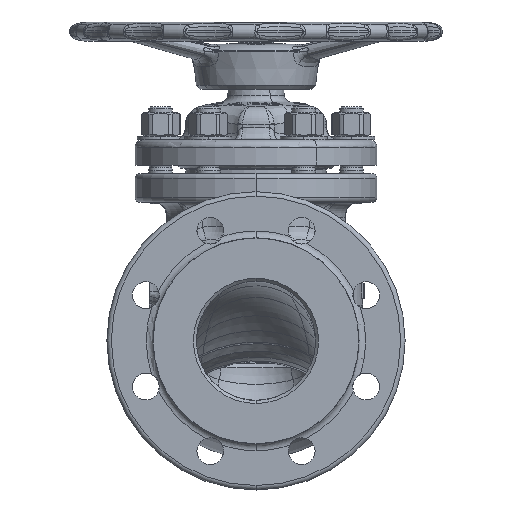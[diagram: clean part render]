
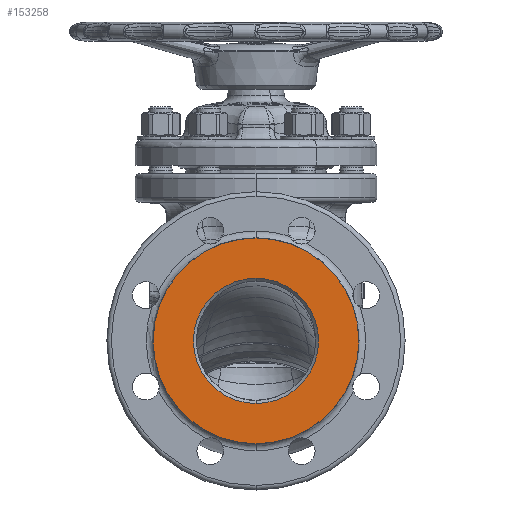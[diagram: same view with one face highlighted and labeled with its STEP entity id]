
A CAD part, left-side view. The second image highlights one B-rep face of the part: STEP entity #153258.
In plain terms, the highlighted planar face has unit normal (-1, 0, 0).
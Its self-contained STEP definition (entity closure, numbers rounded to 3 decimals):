
#27415=CARTESIAN_POINT('',(-155.,0.,0.));
#27416=DIRECTION('',(-1.,0.,0.));
#27417=DIRECTION('',(0.,0.,1.));
#27418=AXIS2_PLACEMENT_3D('',#27415,#27416,#27417);
#27420=CARTESIAN_POINT('',(-155.,0.,0.));
#27421=DIRECTION('',(-1.,0.,0.));
#27422=DIRECTION('',(0.,0.,-1.));
#27423=AXIS2_PLACEMENT_3D('',#27420,#27421,#27422);
#27425=CARTESIAN_POINT('',(-155.,0.,0.));
#27426=DIRECTION('',(-1.,0.,0.));
#27427=DIRECTION('',(0.,0.,1.));
#27428=AXIS2_PLACEMENT_3D('',#27425,#27426,#27427);
#27430=CARTESIAN_POINT('',(-155.,0.,0.));
#27431=DIRECTION('',(-1.,0.,0.));
#27432=DIRECTION('',(0.,0.,-1.));
#27433=AXIS2_PLACEMENT_3D('',#27430,#27431,#27432);
#100012=CARTESIAN_POINT('',(-155.,0.,42.));
#100013=CARTESIAN_POINT('',(-155.,0.,-42.));
#100014=VERTEX_POINT('',#100012);
#100015=VERTEX_POINT('',#100013);
#101651=CARTESIAN_POINT('',(-155.,0.,68.982));
#101652=CARTESIAN_POINT('',(-155.,0.,-68.982));
#101653=VERTEX_POINT('',#101651);
#101654=VERTEX_POINT('',#101652);
#153242=CARTESIAN_POINT('',(-155.,0.,0.));
#153243=DIRECTION('',(-1.,0.,0.));
#153244=DIRECTION('',(0.,0.,1.));
#153245=AXIS2_PLACEMENT_3D('',#153242,#153243,#153244);
#153246=PLANE('',#153245);
#153248=ORIENTED_EDGE('',*,*,#153247,.F.);
#153250=ORIENTED_EDGE('',*,*,#153249,.F.);
#153251=EDGE_LOOP('',(#153248,#153250));
#153252=FACE_OUTER_BOUND('',#153251,.F.);
#153253=ORIENTED_EDGE('',*,*,#153228,.T.);
#153255=ORIENTED_EDGE('',*,*,#153254,.T.);
#153256=EDGE_LOOP('',(#153253,#153255));
#153257=FACE_BOUND('',#153256,.F.);
#153258=ADVANCED_FACE('',(#153252,#153257),#153246,.T.);
#27419=CIRCLE('',#27418,42.);
#27424=CIRCLE('',#27423,42.);
#27429=CIRCLE('',#27428,68.982);
#27434=CIRCLE('',#27433,68.982);
#153228=EDGE_CURVE('',#100014,#100015,#27419,.T.);
#153247=EDGE_CURVE('',#101653,#101654,#27429,.T.);
#153249=EDGE_CURVE('',#101654,#101653,#27434,.T.);
#153254=EDGE_CURVE('',#100015,#100014,#27424,.T.);
